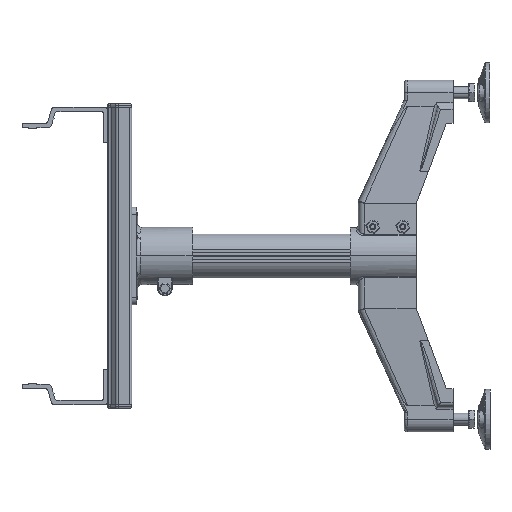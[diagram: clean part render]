
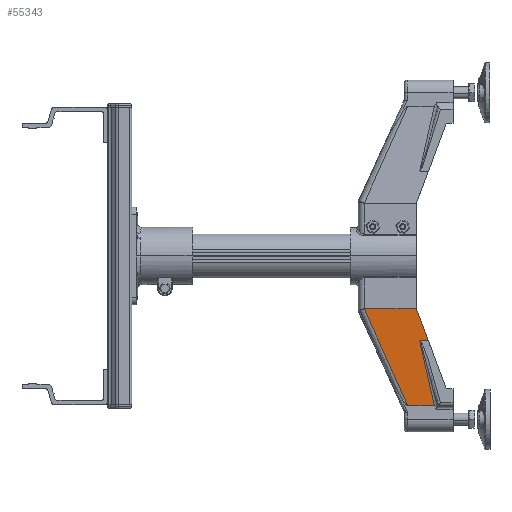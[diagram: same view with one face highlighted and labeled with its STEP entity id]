
A CAD part, left-side view. The second image highlights one B-rep face of the part: STEP entity #55343.
In plain terms, the highlighted planar face has unit normal (-0.998, 0, -0.069).
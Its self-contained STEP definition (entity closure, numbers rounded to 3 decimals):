
#312 = CARTESIAN_POINT ( 'NONE',  ( -450.786, -74.037, 147.021 ) ) ;
#327 = CARTESIAN_POINT ( 'NONE',  ( -450.786, -74.037, 147.021 ) ) ;
#328 = CARTESIAN_POINT ( 'NONE',  ( -450.753, -74.095, 146.555 ) ) ;
#329 = CARTESIAN_POINT ( 'NONE',  ( -450.722, -74.205, 146.102 ) ) ;
#330 = CARTESIAN_POINT ( 'NONE',  ( -450.691, -74.371, 145.663 ) ) ;
#331 = B_SPLINE_CURVE_WITH_KNOTS ( 'NONE', 3,
 ( #330, #329, #328, #327 ),
 .UNSPECIFIED., .F., .F.,
 ( 4, 4 ),
 ( 0., 0.001 ),
 .UNSPECIFIED. ) ;
#520 = CARTESIAN_POINT ( 'NONE',  ( -447.786, -79.194, 103.921 ) ) ;
#832 = CARTESIAN_POINT ( 'NONE',  ( -449.743, -79.512, 132.043 ) ) ;
#833 = CARTESIAN_POINT ( 'NONE',  ( -450.059, -77.802, 136.584 ) ) ;
#923 = CARTESIAN_POINT ( 'NONE',  ( -450.375, -76.089, 141.124 ) ) ;
#924 = CARTESIAN_POINT ( 'NONE',  ( -450.691, -74.371, 145.663 ) ) ;
#925 = B_SPLINE_CURVE_WITH_KNOTS ( 'NONE', 3,
 ( #924, #923, #833, #832 ),
 .UNSPECIFIED., .F., .F.,
 ( 4, 4 ),
 ( 0.001, 0.016 ),
 .UNSPECIFIED. ) ;
#996 = DIRECTION ( 'NONE',  ( 0., -1., 0. ) ) ;
#997 = VECTOR ( 'NONE', #996, 1000. ) ;
#998 = CARTESIAN_POINT ( 'NONE',  ( -447.786, -122.993, 103.921 ) ) ;
#999 = LINE ( 'NONE', #998, #997 ) ;
#1062 = DIRECTION ( 'NONE',  ( -0.068, 0.218, 0.974 ) ) ;
#1063 = VECTOR ( 'NONE', #1062, 1000. ) ;
#1064 = CARTESIAN_POINT ( 'NONE',  ( -447.711, -78.854, 102.849 ) ) ;
#1065 = LINE ( 'NONE', #1064, #1063 ) ;
#1360 = CARTESIAN_POINT ( 'NONE',  ( -450.773, -4.54, 146.837 ) ) ;
#1683 = CARTESIAN_POINT ( 'NONE',  ( -447.786, -79.194, 103.921 ) ) ;
#1684 = CARTESIAN_POINT ( 'NONE',  ( -447.786, -79.096, 103.921 ) ) ;
#1685 = CARTESIAN_POINT ( 'NONE',  ( -447.785, -79.001, 103.911 ) ) ;
#1686 = CARTESIAN_POINT ( 'NONE',  ( -447.781, -78.814, 103.858 ) ) ;
#1687 = CARTESIAN_POINT ( 'NONE',  ( -447.778, -78.723, 103.814 ) ) ;
#1688 = CARTESIAN_POINT ( 'NONE',  ( -447.774, -78.652, 103.748 ) ) ;
#1689 = B_SPLINE_CURVE_WITH_KNOTS ( 'NONE', 3,
 ( #1688, #1687, #1686, #1685, #1684, #1683 ),
 .UNSPECIFIED., .F., .F.,
 ( 4, 2, 4 ),
 ( 0., 0., 0.001 ),
 .UNSPECIFIED. ) ;
#3415 = CARTESIAN_POINT ( 'NONE',  ( -450.786, -4.993, 147.021 ) ) ;
#5166 = CARTESIAN_POINT ( 'NONE',  ( -449.743, -79.512, 132.043 ) ) ;
#5167 = B_SPLINE_CURVE_WITH_KNOTS ( 'NONE', 3,
 ( #5166, #5310, #5309, #5308 ),
 .UNSPECIFIED., .F., .F.,
 ( 4, 4 ),
 ( 0.016, 0.046 ),
 .UNSPECIFIED. ) ;
#5308 = CARTESIAN_POINT ( 'NONE',  ( -447.786, -90.076, 103.921 ) ) ;
#5309 = CARTESIAN_POINT ( 'NONE',  ( -448.439, -86.561, 113.297 ) ) ;
#5310 = CARTESIAN_POINT ( 'NONE',  ( -449.091, -83.042, 122.672 ) ) ;
#10293 = VERTEX_POINT ( 'NONE', #60315 ) ;
#10494 = VERTEX_POINT ( 'NONE', #61279 ) ;
#18790 = CARTESIAN_POINT ( 'NONE',  ( -450.691, -74.371, 145.663 ) ) ;
#22624 = DIRECTION ( 'NONE',  ( 0., -1., 0. ) ) ;
#22625 = VECTOR ( 'NONE', #22624, 1000. ) ;
#22626 = CARTESIAN_POINT ( 'NONE',  ( -441.786, 3.007, 17.721 ) ) ;
#22629 = LINE ( 'NONE', #22626, #22625 ) ;
#25332 = DIRECTION ( 'NONE',  ( 0., -1., 0. ) ) ;
#25334 = VECTOR ( 'NONE', #25332, 1000. ) ;
#25336 = CARTESIAN_POINT ( 'NONE',  ( -450.786, 3.007, 147.021 ) ) ;
#25338 = LINE ( 'NONE', #25336, #25334 ) ;
#35932 = DIRECTION ( 'NONE',  ( -0.069, 0., 0.998 ) ) ;
#35933 = DIRECTION ( 'NONE',  ( -0.998, 0., -0.069 ) ) ;
#35934 = CARTESIAN_POINT ( 'NONE',  ( -434.947, 3.007, -80.533 ) ) ;
#35935 = AXIS2_PLACEMENT_3D ( 'NONE', #35934, #35933, #35932 ) ;
#35936 = PLANE ( 'NONE',  #35935 ) ;
#35952 = FACE_OUTER_BOUND ( 'NONE', #47987, .T. ) ;
#35957 = CARTESIAN_POINT ( 'NONE',  ( -441.786, -62.597, 17.721 ) ) ;
#35958 = CARTESIAN_POINT ( 'NONE',  ( -443.284, -52.923, 39.242 ) ) ;
#35959 = CARTESIAN_POINT ( 'NONE',  ( -444.782, -43.249, 60.762 ) ) ;
#35960 = CARTESIAN_POINT ( 'NONE',  ( -447.777, -23.896, 103.8 ) ) ;
#35961 = CARTESIAN_POINT ( 'NONE',  ( -449.275, -14.215, 125.317 ) ) ;
#35962 = CARTESIAN_POINT ( 'NONE',  ( -450.773, -4.54, 146.837 ) ) ;
#35963 = B_SPLINE_CURVE_WITH_KNOTS ( 'NONE', 3,
 ( #35962, #35961, #35960, #35959, #35958, #35957 ),
 .UNSPECIFIED., .F., .F.,
 ( 4, 2, 4 ),
 ( 0., 0.071, 0.142 ),
 .UNSPECIFIED. ) ;
#36853 = CARTESIAN_POINT ( 'NONE',  ( -450.773, -4.54, 146.837 ) ) ;
#36854 = CARTESIAN_POINT ( 'NONE',  ( -450.782, -4.691, 146.96 ) ) ;
#36855 = CARTESIAN_POINT ( 'NONE',  ( -450.786, -4.842, 147.021 ) ) ;
#36856 = CARTESIAN_POINT ( 'NONE',  ( -450.786, -4.993, 147.021 ) ) ;
#36857 =( BOUNDED_CURVE ( )  B_SPLINE_CURVE ( 3, ( #36856, #36855, #36854, #36853 ),
 .UNSPECIFIED., .F., .F. ) 
 B_SPLINE_CURVE_WITH_KNOTS ( ( 4, 4 ),
 ( 3.142, 3.198 ),
 .UNSPECIFIED. ) 
 CURVE ( )  GEOMETRIC_REPRESENTATION_ITEM ( )  RATIONAL_B_SPLINE_CURVE ( ( 1., 1., 1., 1. ) ) 
 REPRESENTATION_ITEM ( '' )  );
#38500 = CARTESIAN_POINT ( 'NONE',  ( -449.743, -79.512, 132.043 ) ) ;
#38638 = CARTESIAN_POINT ( 'NONE',  ( -447.786, -90.076, 103.921 ) ) ;
#42794 = VERTEX_POINT ( 'NONE', #63207 ) ;
#43065 = EDGE_CURVE ( 'NONE', #47483, #43078, #331, .T. ) ;
#43078 = VERTEX_POINT ( 'NONE', #312 ) ;
#43124 = VERTEX_POINT ( 'NONE', #520 ) ;
#43190 = EDGE_CURVE ( 'NONE', #47483, #55864, #925, .T. ) ;
#43267 = EDGE_CURVE ( 'NONE', #10293, #42794, #1065, .T. ) ;
#43341 = EDGE_CURVE ( 'NONE', #43124, #55835, #999, .T. ) ;
#43387 = VERTEX_POINT ( 'NONE', #1360 ) ;
#43413 = EDGE_CURVE ( 'NONE', #42794, #43124, #1689, .T. ) ;
#43514 = VERTEX_POINT ( 'NONE', #3415 ) ;
#43975 = EDGE_CURVE ( 'NONE', #55864, #55835, #5167, .T. ) ;
#46347 = EDGE_CURVE ( 'NONE', #10494, #10293, #22629, .T. ) ;
#47483 = VERTEX_POINT ( 'NONE', #18790 ) ;
#47673 = EDGE_CURVE ( 'NONE', #43514, #43078, #25338, .T. ) ;
#47987 = EDGE_LOOP ( 'NONE', ( #55339, #55475, #55487, #55486, #55494, #55493, #55526, #55525, #55574, #55573 ) ) ;
#55339 = ORIENTED_EDGE ( 'NONE', *, *, #55476, .T. ) ;
#55340 = EDGE_CURVE ( 'NONE', #43387, #10494, #35963, .T. ) ;
#55343 = ADVANCED_FACE ( 'NONE', ( #35952 ), #35936, .T. ) ;
#55475 = ORIENTED_EDGE ( 'NONE', *, *, #55340, .T. ) ;
#55476 = EDGE_CURVE ( 'NONE', #43514, #43387, #36857, .T. ) ;
#55486 = ORIENTED_EDGE ( 'NONE', *, *, #43267, .T. ) ;
#55487 = ORIENTED_EDGE ( 'NONE', *, *, #46347, .T. ) ;
#55493 = ORIENTED_EDGE ( 'NONE', *, *, #43341, .T. ) ;
#55494 = ORIENTED_EDGE ( 'NONE', *, *, #43413, .T. ) ;
#55525 = ORIENTED_EDGE ( 'NONE', *, *, #43190, .F. ) ;
#55526 = ORIENTED_EDGE ( 'NONE', *, *, #43975, .F. ) ;
#55573 = ORIENTED_EDGE ( 'NONE', *, *, #47673, .F. ) ;
#55574 = ORIENTED_EDGE ( 'NONE', *, *, #43065, .T. ) ;
#55835 = VERTEX_POINT ( 'NONE', #38638 ) ;
#55864 = VERTEX_POINT ( 'NONE', #38500 ) ;
#60315 = CARTESIAN_POINT ( 'NONE',  ( -441.786, -97.946, 17.721 ) ) ;
#61279 = CARTESIAN_POINT ( 'NONE',  ( -441.786, -62.597, 17.721 ) ) ;
#63207 = CARTESIAN_POINT ( 'NONE',  ( -447.774, -78.652, 103.748 ) ) ;
